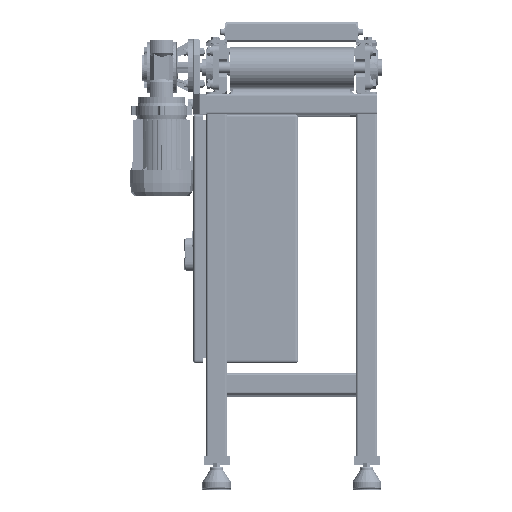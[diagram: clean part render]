
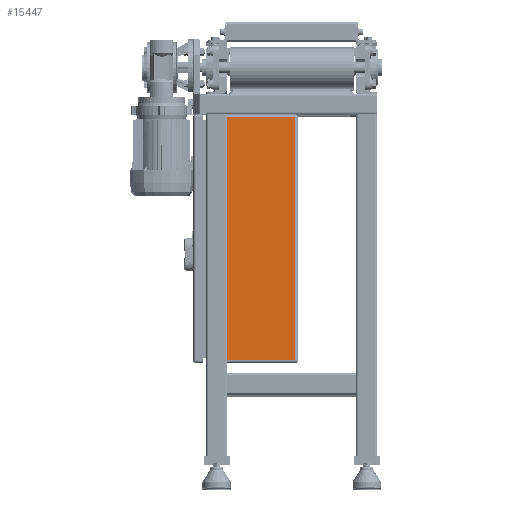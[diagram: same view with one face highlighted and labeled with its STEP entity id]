
A CAD part, top view. The second image highlights one B-rep face of the part: STEP entity #15447.
In plain terms, the highlighted planar face has unit normal (0, 0, 1).
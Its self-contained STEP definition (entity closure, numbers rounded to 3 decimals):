
#10459=PLANE('',#84990);
#15447=ADVANCED_FACE('',(#20748),#10459,.F.);
#20748=FACE_OUTER_BOUND('',#25560,.T.);
#25560=EDGE_LOOP('',(#55790,#55791,#55792,#55793));
#30383=LINE('',#147800,#35486);
#30384=LINE('',#147803,#35487);
#30385=LINE('',#147805,#35488);
#30386=LINE('',#147807,#35489);
#35486=VECTOR('',#103915,1.);
#35487=VECTOR('',#103916,1.);
#35488=VECTOR('',#103917,1.);
#35489=VECTOR('',#103918,1.);
#55790=ORIENTED_EDGE('',*,*,#74195,.T.);
#55791=ORIENTED_EDGE('',*,*,#74196,.F.);
#55792=ORIENTED_EDGE('',*,*,#74197,.T.);
#55793=ORIENTED_EDGE('',*,*,#74198,.T.);
#63818=VERTEX_POINT('',#147801);
#63819=VERTEX_POINT('',#147802);
#63820=VERTEX_POINT('',#147804);
#63821=VERTEX_POINT('',#147806);
#74195=EDGE_CURVE('',#63818,#63819,#30383,.T.);
#74196=EDGE_CURVE('',#63820,#63819,#30384,.T.);
#74197=EDGE_CURVE('',#63820,#63821,#30385,.T.);
#74198=EDGE_CURVE('',#63821,#63818,#30386,.T.);
#84990=AXIS2_PLACEMENT_3D('',#147808,#103919,#103920);
#103915=DIRECTION('',(-1.,0.,0.));
#103916=DIRECTION('',(0.,1.,0.));
#103917=DIRECTION('',(1.,0.,0.));
#103918=DIRECTION('',(0.,1.,0.));
#103919=DIRECTION('',(0.,0.,-1.));
#103920=DIRECTION('',(1.,0.,0.));
#147800=CARTESIAN_POINT('',(202.,235.,190.));
#147801=CARTESIAN_POINT('',(197.,235.,190.));
#147802=CARTESIAN_POINT('',(25.,235.,190.));
#147803=CARTESIAN_POINT('',(25.,240.,190.));
#147804=CARTESIAN_POINT('',(25.,-235.,190.));
#147805=CARTESIAN_POINT('',(202.,-235.,190.));
#147806=CARTESIAN_POINT('',(197.,-235.,190.));
#147807=CARTESIAN_POINT('',(197.,-240.,190.));
#147808=CARTESIAN_POINT('',(202.,-240.,190.));
